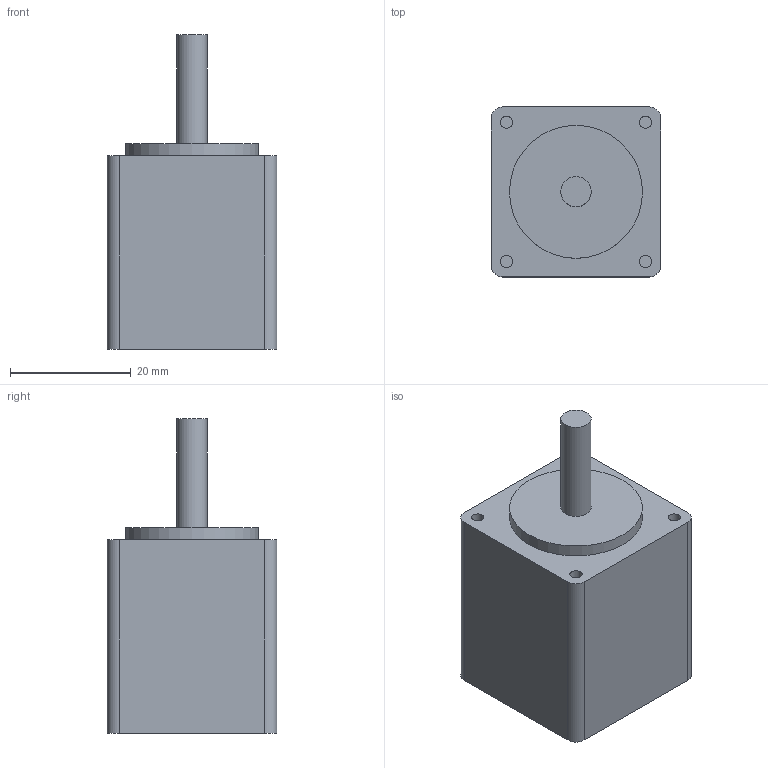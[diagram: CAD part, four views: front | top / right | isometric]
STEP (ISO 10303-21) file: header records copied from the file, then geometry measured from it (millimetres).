
FILE_DESCRIPTION(/* description */ ('Alibre Inc.'),/* implementation_level */ '2;1');
FILE_NAME(/* name */ 'export0',/* time_stamp */ '2013-07-25T14:42:18-06:00',/* author */ (''),/* organization */ (''),/* preprocessor_version */ 'ST-DEVELOPER v14',/* originating_system */ 'Alibre',/* authorisation */ '');
FILE_SCHEMA (('ALIBRE_SCHEMA','CONFIG_CONTROL_DESIGN'));
Length unit declared in the file: centimetre
Products named in the file (1): ID_1
Bounding box: 28.1 x 28.1 x 52 mm (x, y, z)
Volume: 26214.1 mm3; surface area: 5594.1 mm2
Topology: 1 solids, 1 shells, 22 faces, 42 edges, 28 vertices
Faces by surface type: plane 12, cylinder 10
Full cylindrical faces by diameter (mm): 2.013 x4, 5 x1, 22 x1
Entity records: 1697 total; most frequent: CARTESIAN_POINT 222, CONSTRAINTPAIRUV 131, DIRECTION 131, REFERENCEDEPENDENTUV 106, REFERENCEPOINTUV 79, ORIENTED_EDGE 72, VECTOR 52, AXIS2_PLACEMENT_3D 50
